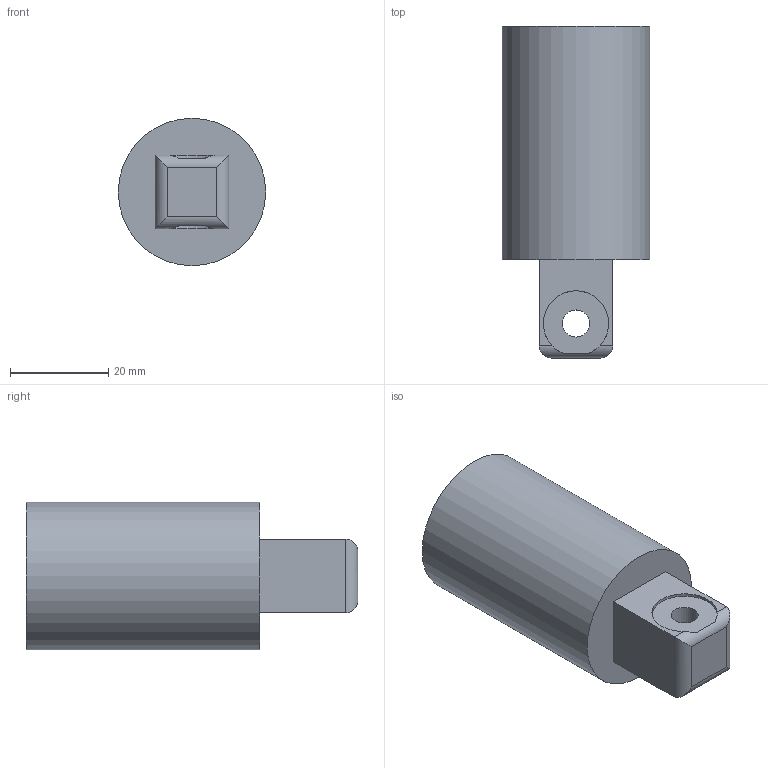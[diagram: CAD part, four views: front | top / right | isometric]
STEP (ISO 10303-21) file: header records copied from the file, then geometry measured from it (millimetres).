
FILE_DESCRIPTION( ( 'Unknown' ), '1' );
FILE_NAME( 'C:/Users/Fabrizio/Desktop/DISEGNI ACCESSORI FP SOLIDEDGE/CA.04.12.002.stp', 'Unknown', ( 'Unknown' ), ( 'Unknown' ), 'PSStep 13.0', 'Unknown', ' ' );
FILE_SCHEMA( ( 'AUTOMOTIVE_DESIGN { 1 0 10303 214 1 1 1 1 }' ) );
Length unit declared in the file: millimetre
Products named in the file (1): 1
Bounding box: 30 x 67.5 x 30 mm (x, y, z)
Volume: 37513 mm3; surface area: 7252.8 mm2
Topology: 1 solids, 1 shells, 17 faces, 40 edges, 26 vertices
Faces by surface type: plane 9, cylinder 8
Full cylindrical faces by diameter (mm): 5.5 x1, 30 x1
Entity records: 501 total; most frequent: CARTESIAN_POINT 106, DIRECTION 80, ORIENTED_EDGE 72, EDGE_CURVE 36, AXIS2_PLACEMENT_3D 30, VERTEX_POINT 24, EDGE_LOOP 22, LINE 20
